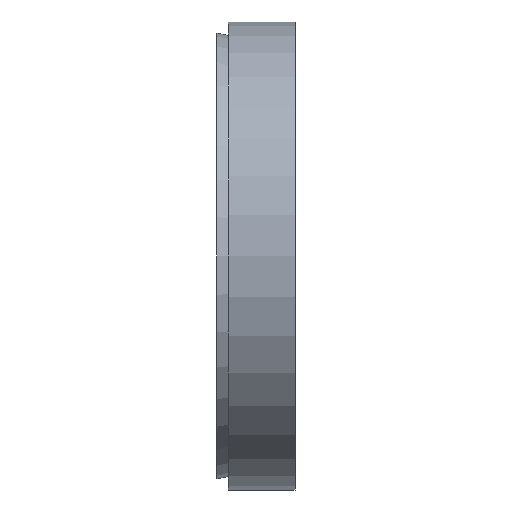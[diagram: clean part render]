
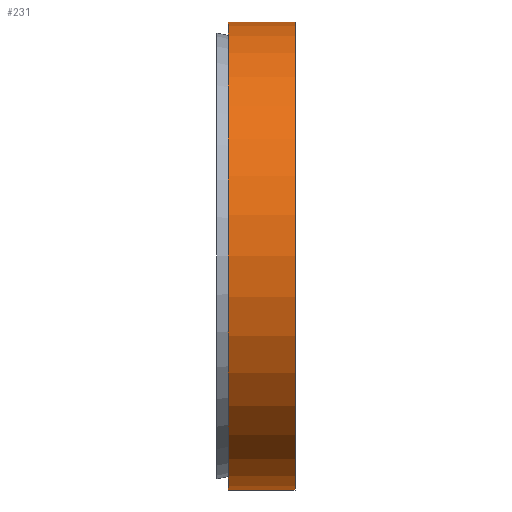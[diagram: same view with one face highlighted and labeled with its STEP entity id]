
A CAD part, front view. The second image highlights one B-rep face of the part: STEP entity #231.
In plain terms, the highlighted cylindrical face has radius 21 mm (diameter 42 mm), a partial arc.
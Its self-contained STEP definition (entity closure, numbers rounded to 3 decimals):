
#36 = CARTESIAN_POINT ( 'NONE',  ( 7., 0., 21. ) ) ;
#37 = CARTESIAN_POINT ( 'NONE',  ( 1., 0., -21. ) ) ;
#38 = DIRECTION ( 'NONE',  ( -1., 0., 0. ) ) ;
#39 = VECTOR ( 'NONE', #38, 1000. ) ;
#40 = CARTESIAN_POINT ( 'NONE',  ( 0., 0., -21. ) ) ;
#41 = LINE ( 'NONE', #40, #39 ) ;
#172 = DIRECTION ( 'NONE',  ( -1., 0., 0. ) ) ;
#175 = AXIS2_PLACEMENT_3D ( 'NONE', #182, #172, #358 ) ;
#176 = CIRCLE ( 'NONE', #175, 21. ) ;
#178 = DIRECTION ( 'NONE',  ( 0., 0., 1. ) ) ;
#179 = DIRECTION ( 'NONE',  ( -1., 0., 0. ) ) ;
#180 = CARTESIAN_POINT ( 'NONE',  ( 0., 0., 0. ) ) ;
#181 = AXIS2_PLACEMENT_3D ( 'NONE', #180, #179, #178 ) ;
#182 = CARTESIAN_POINT ( 'NONE',  ( 7., 0., 0. ) ) ;
#183 = CYLINDRICAL_SURFACE ( 'NONE', #181, 21. ) ;
#184 = FACE_OUTER_BOUND ( 'NONE', #232, .T. ) ;
#185 = CARTESIAN_POINT ( 'NONE',  ( 1., 0., 21. ) ) ;
#191 = DIRECTION ( 'NONE',  ( 0., 0., 1. ) ) ;
#192 = DIRECTION ( 'NONE',  ( -1., 0., 0. ) ) ;
#193 = CARTESIAN_POINT ( 'NONE',  ( 1., 0., 0. ) ) ;
#194 = AXIS2_PLACEMENT_3D ( 'NONE', #193, #192, #191 ) ;
#195 = CIRCLE ( 'NONE', #194, 21. ) ;
#196 = DIRECTION ( 'NONE',  ( -1., 0., 0. ) ) ;
#197 = VECTOR ( 'NONE', #196, 1000. ) ;
#198 = CARTESIAN_POINT ( 'NONE',  ( 0., 0., 21. ) ) ;
#199 = LINE ( 'NONE', #198, #197 ) ;
#223 = EDGE_CURVE ( 'NONE', #271, #230, #199, .T. ) ;
#228 = EDGE_CURVE ( 'NONE', #269, #230, #195, .T. ) ;
#230 = VERTEX_POINT ( 'NONE', #185 ) ;
#231 = ADVANCED_FACE ( 'NONE', ( #184 ), #183, .T. ) ;
#232 = EDGE_LOOP ( 'NONE', ( #233, #234, #236, #237 ) ) ;
#233 = ORIENTED_EDGE ( 'NONE', *, *, #268, .F. ) ;
#234 = ORIENTED_EDGE ( 'NONE', *, *, #235, .T. ) ;
#235 = EDGE_CURVE ( 'NONE', #266, #271, #176, .T. ) ;
#236 = ORIENTED_EDGE ( 'NONE', *, *, #223, .T. ) ;
#237 = ORIENTED_EDGE ( 'NONE', *, *, #228, .F. ) ;
#266 = VERTEX_POINT ( 'NONE', #380 ) ;
#268 = EDGE_CURVE ( 'NONE', #266, #269, #41, .T. ) ;
#269 = VERTEX_POINT ( 'NONE', #37 ) ;
#271 = VERTEX_POINT ( 'NONE', #36 ) ;
#358 = DIRECTION ( 'NONE',  ( 0., 0., 1. ) ) ;
#380 = CARTESIAN_POINT ( 'NONE',  ( 7., 0., -21. ) ) ;
